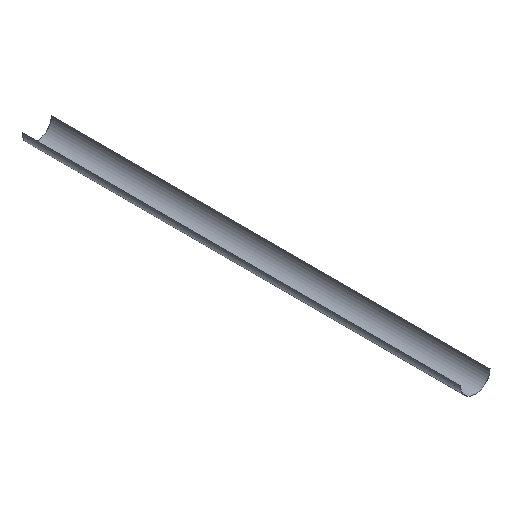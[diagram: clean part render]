
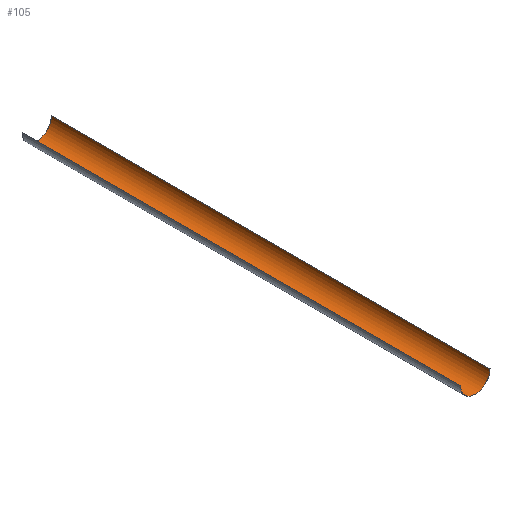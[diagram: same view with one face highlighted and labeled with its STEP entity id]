
A CAD part, isometric view. The second image highlights one B-rep face of the part: STEP entity #105.
In plain terms, the highlighted cylindrical face has radius 100 mm (diameter 200 mm), a partial arc.
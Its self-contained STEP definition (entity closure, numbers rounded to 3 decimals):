
#13=CYLINDRICAL_SURFACE($,#117,100.);
#18=FACE_OUTER_BOUND($,#24,.T.);
#24=EDGE_LOOP($,(#82,#83,#84,#85));
#26=CIRCLE($,#111,100.);
#29=CIRCLE($,#118,100.);
#34=LINE($,#165,#42);
#37=LINE($,#173,#45);
#42=VECTOR($,#134,3000.);
#45=VECTOR($,#143,3000.);
#46=VERTEX_POINT($,#152);
#48=VERTEX_POINT($,#155);
#50=VERTEX_POINT($,#161);
#53=VERTEX_POINT($,#171);
#55=EDGE_CURVE($,#48,#46,#26,.T.);
#60=EDGE_CURVE($,#50,#48,#34,.T.);
#64=EDGE_CURVE($,#46,#53,#37,.T.);
#65=EDGE_CURVE($,#53,#50,#29,.T.);
#82=ORIENTED_EDGE($,*,*,#65,.T.);
#83=ORIENTED_EDGE($,*,*,#60,.T.);
#84=ORIENTED_EDGE($,*,*,#55,.T.);
#85=ORIENTED_EDGE($,*,*,#64,.T.);
#105=ADVANCED_FACE($,(#18),#13,.F.);
#111=AXIS2_PLACEMENT_3D($,#156,#125,#126);
#117=AXIS2_PLACEMENT_3D($,#174,#144,#145);
#118=AXIS2_PLACEMENT_3D($,#175,#146,#147);
#125=DIRECTION('center_axis',(0.,-1.,0.));
#126=DIRECTION('ref_axis',(-1.,0.,0.));
#134=DIRECTION($,(0.,-1.,0.));
#143=DIRECTION($,(0.,1.,0.));
#144=DIRECTION('center_axis',(0.,1.,0.));
#145=DIRECTION('ref_axis',(-1.,0.,0.));
#146=DIRECTION('center_axis',(0.,1.,0.));
#147=DIRECTION('ref_axis',(-1.,0.,0.));
#152=CARTESIAN_POINT('',(100.,-1500.,0.));
#155=CARTESIAN_POINT('',(-100.,-1500.,0.));
#156=CARTESIAN_POINT('Origin',(0.,-1500.,0.));
#161=CARTESIAN_POINT('',(-100.,1500.,0.));
#165=CARTESIAN_POINT($,(-100.,0.,0.));
#171=CARTESIAN_POINT('',(100.,1500.,0.));
#173=CARTESIAN_POINT($,(100.,0.,0.));
#174=CARTESIAN_POINT('Origin',(0.,0.,0.));
#175=CARTESIAN_POINT('Origin',(0.,1500.,0.));
